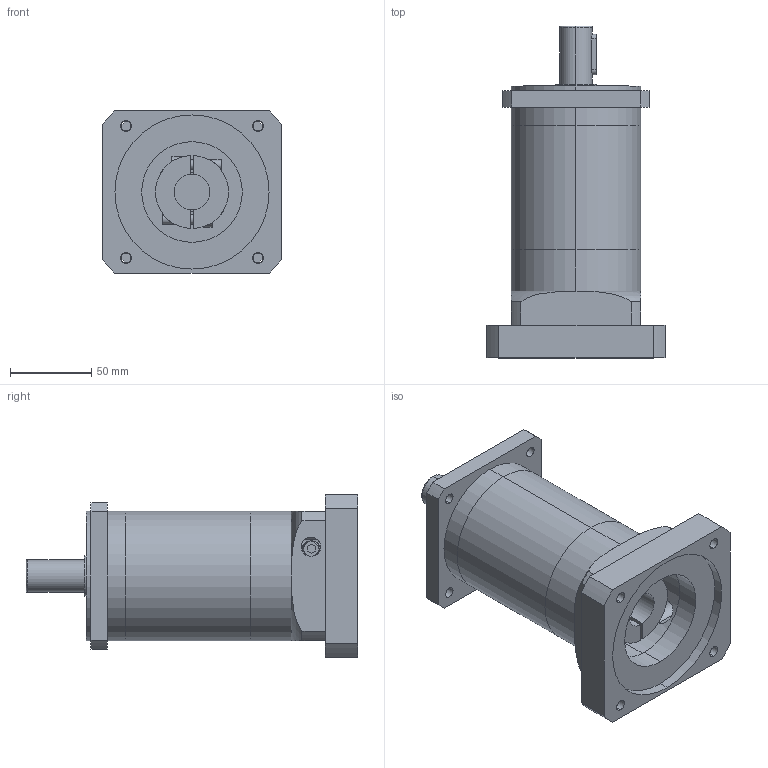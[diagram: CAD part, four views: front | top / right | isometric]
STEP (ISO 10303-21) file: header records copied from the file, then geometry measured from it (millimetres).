
FILE_DESCRIPTION (( 'STEP AP203' ), '1' );
FILE_NAME ('WPF080ﾐﾂ-L2(750W)ﾍ簟ﾎﾍｼ(22-61-95-115-M8).STEP', '2019-08-07T06:00:20', ( 'Windows' ), ( 'Microsoft' ), 'SwSTEP 2.0', 'SolidWorks 2016', '' );
FILE_SCHEMA (( 'CONFIG_CONTROL_DESIGN' ));
Length unit declared in the file: millimetre
Products named in the file (1): WPF080ﾐﾂ-L2(750W)ﾍ簟ﾎﾍｼ(22-61-95-115-M8)
Bounding box: 110 x 204.5 x 100 mm (x, y, z)
Volume: 878876.7 mm3; surface area: 118480.5 mm2
Topology: 4 solids, 8 shells, 191 faces, 440 edges, 275 vertices
Faces by surface type: cylinder 90, plane 69, cone 22, torus 10
Entity records: 6087 total; most frequent: CARTESIAN_POINT 1541, DIRECTION 998, ORIENTED_EDGE 860, EDGE_CURVE 430, AXIS2_PLACEMENT_3D 396, VERTEX_POINT 275, EDGE_LOOP 237, LINE 206
